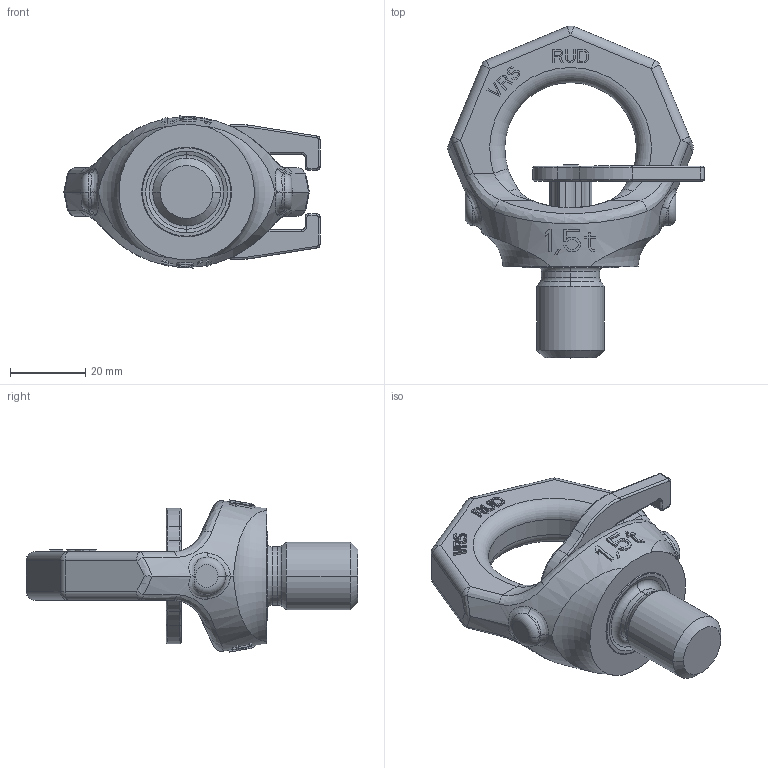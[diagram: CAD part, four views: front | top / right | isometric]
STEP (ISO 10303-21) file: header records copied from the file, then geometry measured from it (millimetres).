
FILE_DESCRIPTION((''),'2;1');
FILE_NAME('001-M13141-P-20_ASM','2017-01-23T',('Andreas.Wendler'),(''),'PRO/ENGINEER BY PARAMETRIC TECHNOLOGY CORPORATION, 2011490','PRO/ENGINEER BY PARAMETRIC TECHNOLOGY CORPORATION, 2011490','');
FILE_SCHEMA(('CONFIG_CONTROL_DESIGN'));
Length unit declared in the file: millimetre
Products named in the file (4): 001-M35307-P-1; 001-M13141-P-1; 001-M33192-P-2; 001-M13141-P-20_ASM
Assembly tree (3 placements, depth 2):
  001-M13141-P-20_ASM
    001-M35307-P-1
    001-M13141-P-1
    001-M33192-P-2
Bounding box: 68.12 x 88.24 x 40.42 mm (x, y, z)
Volume: 48205.7 mm3; surface area: 17089.4 mm2
Topology: 3 solids, 3 shells, 730 faces, 1957 edges, 1260 vertices
Faces by surface type: plane 543, cylinder 75, bspline 54, torus 36, sphere 14, cone 8
Entity records: 25682 total; most frequent: CARTESIAN_POINT 8099, ORIENTED_EDGE 3914, DIRECTION 3195, EDGE_CURVE 1957, VECTOR 1337, LINE 1337, VERTEX_POINT 1260, AXIS2_PLACEMENT_3D 929
